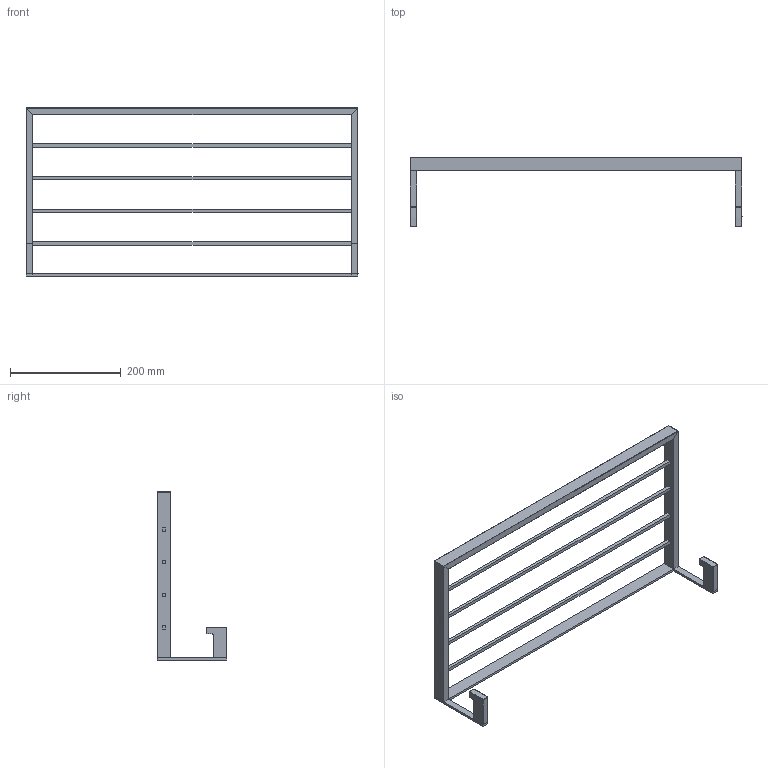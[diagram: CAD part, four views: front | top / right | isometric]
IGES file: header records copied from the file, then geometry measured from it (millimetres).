
Start section: SolidWorks IGES file using analytic representation for surfaces
Global section: file name: G:\Projects\New project\For Marketing\IGS\IGS\2015-12-11\495110002VW.IGS; native system: SolidWorks 2010; preprocessor: SolidWorks 2010; author: linda; date: 151211.111837; units: millimetre
Bounding box: 600.5 x 125 x 304 mm (x, y, z)
Surface area: 191425.9 mm2 (no closed solid volume)
Topology: 0 solids, 0 shells, 142 faces, 1952 edges, 1952 vertices
Faces by surface type: revolution 86, bspline 56
